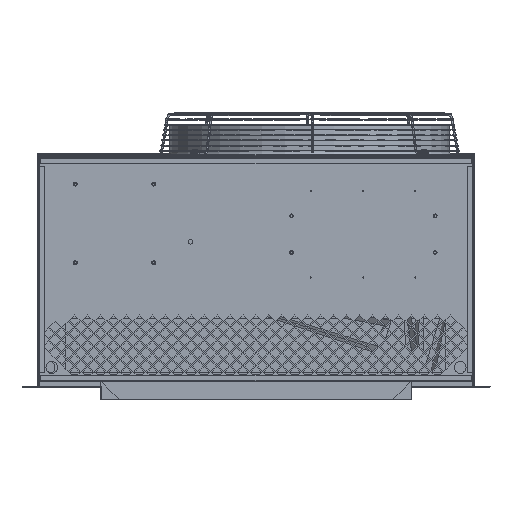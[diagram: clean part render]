
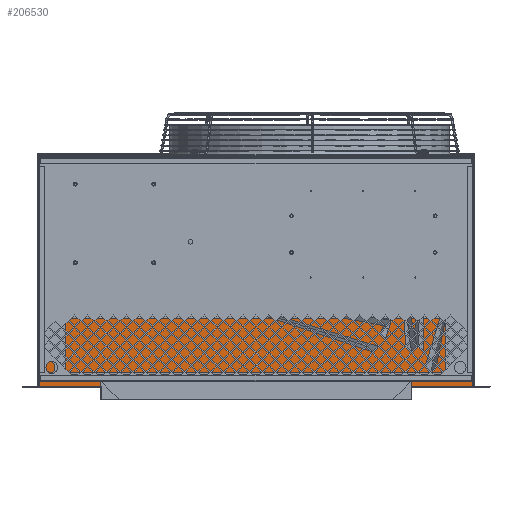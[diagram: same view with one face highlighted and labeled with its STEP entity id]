
A CAD part, front view. The second image highlights one B-rep face of the part: STEP entity #206530.
In plain terms, the highlighted planar face has unit normal (0, -0.999, -0.035) as drawn and (0, -1, 0) by its records, which use the part's own axes.
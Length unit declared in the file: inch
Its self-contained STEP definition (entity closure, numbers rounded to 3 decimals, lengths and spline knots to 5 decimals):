
#312 = CARTESIAN_POINT ( 'NONE',  ( -20.83, 0., -21.98 ) ) ;
#6158 = CARTESIAN_POINT ( 'NONE',  ( 20.83, 0., 0. ) ) ;
#7934 = EDGE_CURVE ( 'NONE', #227896, #58117, #247951, .T. ) ;
#10100 = CARTESIAN_POINT ( 'NONE',  ( 20.83, 0., 0. ) ) ;
#13836 = EDGE_LOOP ( 'NONE', ( #37484, #128929, #44903, #153629, #172761, #28287 ) ) ;
#17639 = DIRECTION ( 'NONE',  ( 0., 0., 1. ) ) ;
#17664 = CARTESIAN_POINT ( 'NONE',  ( 20.83, 0., 0. ) ) ;
#18784 = AXIS2_PLACEMENT_3D ( 'NONE', #312, #42916, #116920 ) ;
#28153 = VECTOR ( 'NONE', #60605, 39.37008 ) ;
#28287 = ORIENTED_EDGE ( 'NONE', *, *, #169182, .F. ) ;
#37484 = ORIENTED_EDGE ( 'NONE', *, *, #199388, .F. ) ;
#38927 = LINE ( 'NONE', #17664, #181449 ) ;
#42916 = DIRECTION ( 'NONE',  ( 0., -1., 0. ) ) ;
#44903 = ORIENTED_EDGE ( 'NONE', *, *, #7934, .F. ) ;
#56499 = LINE ( 'NONE', #189434, #111035 ) ;
#58117 = VERTEX_POINT ( 'NONE', #122329 ) ;
#58267 = EDGE_CURVE ( 'NONE', #58117, #227870, #247988, .T. ) ;
#60605 = DIRECTION ( 'NONE',  ( 0., 0., 1. ) ) ;
#62000 = CARTESIAN_POINT ( 'NONE',  ( 20.83, 0., -21.853 ) ) ;
#68756 = VERTEX_POINT ( 'NONE', #6158 ) ;
#80270 = DIRECTION ( 'NONE',  ( 0., 0., -1. ) ) ;
#80519 = FACE_OUTER_BOUND ( 'NONE', #13836, .T. ) ;
#90812 = CARTESIAN_POINT ( 'NONE',  ( -20.83, 0., 0. ) ) ;
#111035 = VECTOR ( 'NONE', #17639, 39.37008 ) ;
#111955 = VERTEX_POINT ( 'NONE', #120718 ) ;
#114584 = VECTOR ( 'NONE', #172650, 39.37008 ) ;
#116920 = DIRECTION ( 'NONE',  ( 0., 0., -1. ) ) ;
#120718 = CARTESIAN_POINT ( 'NONE',  ( -20.83, 0., 0. ) ) ;
#122329 = CARTESIAN_POINT ( 'NONE',  ( 20.83, 0., -21.98 ) ) ;
#128929 = ORIENTED_EDGE ( 'NONE', *, *, #58267, .F. ) ;
#133515 = EDGE_CURVE ( 'NONE', #68756, #227896, #38927, .T. ) ;
#153629 = ORIENTED_EDGE ( 'NONE', *, *, #133515, .F. ) ;
#159755 = CARTESIAN_POINT ( 'NONE',  ( -20.83, 0., -21.98 ) ) ;
#167852 = EDGE_CURVE ( 'NONE', #111955, #68756, #207419, .T. ) ;
#169182 = EDGE_CURVE ( 'NONE', #194778, #111955, #56499, .T. ) ;
#172650 = DIRECTION ( 'NONE',  ( -1., 0., 0. ) ) ;
#172761 = ORIENTED_EDGE ( 'NONE', *, *, #167852, .F. ) ;
#175785 = PLANE ( 'NONE',  #18784 ) ;
#178450 = LINE ( 'NONE', #197263, #28153 ) ;
#181449 = VECTOR ( 'NONE', #80270, 39.37008 ) ;
#189434 = CARTESIAN_POINT ( 'NONE',  ( -20.83, 0., -21.853 ) ) ;
#194778 = VERTEX_POINT ( 'NONE', #211237 ) ;
#197263 = CARTESIAN_POINT ( 'NONE',  ( -20.83, 0., 0. ) ) ;
#199388 = EDGE_CURVE ( 'NONE', #227870, #194778, #178450, .T. ) ;
#202034 = DIRECTION ( 'NONE',  ( 0., 0., -1. ) ) ;
#206530 = ADVANCED_FACE ( 'NONE', ( #80519 ), #175785, .T. ) ;
#207419 = LINE ( 'NONE', #90812, #246536 ) ;
#207902 = CARTESIAN_POINT ( 'NONE',  ( -20.83, 0., -21.98 ) ) ;
#211237 = CARTESIAN_POINT ( 'NONE',  ( -20.83, 0., -21.853 ) ) ;
#227450 = DIRECTION ( 'NONE',  ( 1., 0., 0. ) ) ;
#227870 = VERTEX_POINT ( 'NONE', #159755 ) ;
#227896 = VERTEX_POINT ( 'NONE', #62000 ) ;
#245397 = VECTOR ( 'NONE', #202034, 39.37008 ) ;
#246536 = VECTOR ( 'NONE', #227450, 39.37008 ) ;
#247951 = LINE ( 'NONE', #10100, #245397 ) ;
#247988 = LINE ( 'NONE', #207902, #114584 ) ;
